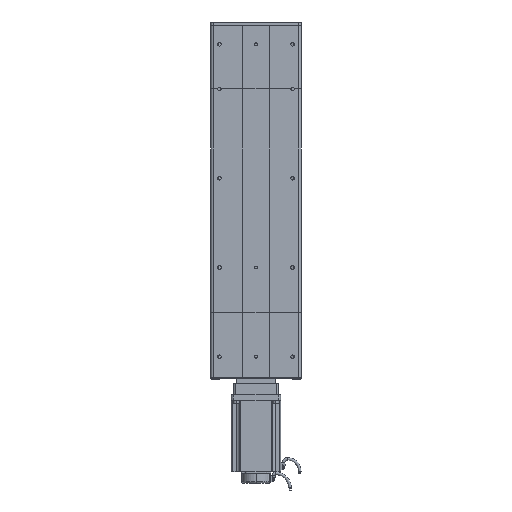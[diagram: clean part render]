
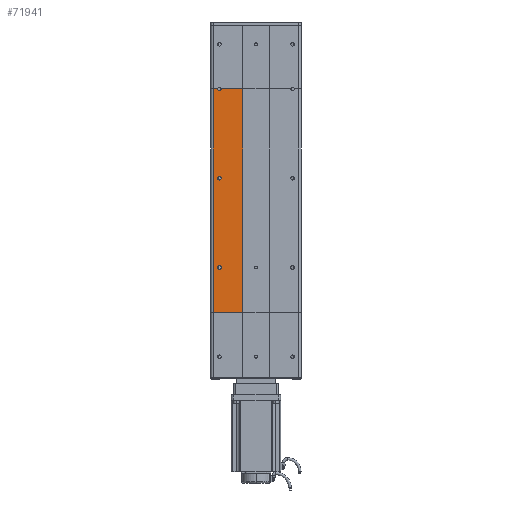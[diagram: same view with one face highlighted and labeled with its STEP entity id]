
A CAD part, front view. The second image highlights one B-rep face of the part: STEP entity #71941.
In plain terms, the highlighted planar face has unit normal (0, -1, 0).
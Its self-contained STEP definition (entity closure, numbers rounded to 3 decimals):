
#36887 = CARTESIAN_POINT ( 'NONE',  ( -30., -34.5, 500. ) ) ;
#36985 = CARTESIAN_POINT ( 'NONE',  ( -78., -34.5, 300. ) ) ;
#37062 = CARTESIAN_POINT ( 'NONE',  ( -78., -34.5, 500. ) ) ;
#37180 = CARTESIAN_POINT ( 'NONE',  ( -78., -34.5, 100. ) ) ;
#37263 = DIRECTION ( 'NONE',  ( 1., 0., 0. ) ) ;
#37264 = DIRECTION ( 'NONE',  ( 0., -1., 0. ) ) ;
#37272 = CARTESIAN_POINT ( 'NONE',  ( -82., -34.5, 100. ) ) ;
#37273 = AXIS2_PLACEMENT_3D ( 'NONE', #37272, #37264, #37263 ) ;
#37274 = CIRCLE ( 'NONE', #37273, 4. ) ;
#37314 = CARTESIAN_POINT ( 'NONE',  ( -86., -34.5, 100. ) ) ;
#37441 = CIRCLE ( 'NONE', #37449, 4. ) ;
#37444 = CARTESIAN_POINT ( 'NONE',  ( -82., -34.5, 300. ) ) ;
#37449 = AXIS2_PLACEMENT_3D ( 'NONE', #37444, #37515, #37514 ) ;
#37514 = DIRECTION ( 'NONE',  ( 1., 0., 0. ) ) ;
#37515 = DIRECTION ( 'NONE',  ( 0., -1., 0. ) ) ;
#37606 = LINE ( 'NONE', #37724, #37723 ) ;
#37722 = DIRECTION ( 'NONE',  ( 1., 0., 0. ) ) ;
#37723 = VECTOR ( 'NONE', #37722, 1000. ) ;
#37724 = CARTESIAN_POINT ( 'NONE',  ( -96., -34.5, 500. ) ) ;
#37819 = AXIS2_PLACEMENT_3D ( 'NONE', #37887, #37884, #37854 ) ;
#37820 = LINE ( 'NONE', #37855, #37889 ) ;
#37822 = CARTESIAN_POINT ( 'NONE',  ( -30., -34.5, 0. ) ) ;
#37854 = DIRECTION ( 'NONE',  ( 1., 0., 0. ) ) ;
#37855 = CARTESIAN_POINT ( 'NONE',  ( -96., -34.5, 0. ) ) ;
#37856 = CIRCLE ( 'NONE', #37819, 4. ) ;
#37857 = DIRECTION ( 'NONE',  ( 0., 0., 1. ) ) ;
#37858 = VECTOR ( 'NONE', #37857, 1000. ) ;
#37859 = CARTESIAN_POINT ( 'NONE',  ( -30., -34.5, 0. ) ) ;
#37860 = LINE ( 'NONE', #37859, #37858 ) ;
#37884 = DIRECTION ( 'NONE',  ( 0., -1., 0. ) ) ;
#37887 = CARTESIAN_POINT ( 'NONE',  ( -82., -34.5, 500. ) ) ;
#37888 = DIRECTION ( 'NONE',  ( 1., 0., 0. ) ) ;
#37889 = VECTOR ( 'NONE', #37888, 1000. ) ;
#37942 = CARTESIAN_POINT ( 'NONE',  ( -86., -34.5, 300. ) ) ;
#38131 = CARTESIAN_POINT ( 'NONE',  ( -86., -34.5, 500. ) ) ;
#38191 = CARTESIAN_POINT ( 'NONE',  ( -96., -34.5, 500. ) ) ;
#38411 = CARTESIAN_POINT ( 'NONE',  ( -96., -34.5, 500. ) ) ;
#38427 = LINE ( 'NONE', #38411, #38433 ) ;
#38432 = DIRECTION ( 'NONE',  ( 1., 0., 0. ) ) ;
#38433 = VECTOR ( 'NONE', #38432, 1000. ) ;
#38761 = CIRCLE ( 'NONE', #38762, 4. ) ;
#38762 = AXIS2_PLACEMENT_3D ( 'NONE', #38776, #38775, #38774 ) ;
#38767 = FACE_BOUND ( 'NONE', #71893, .T. ) ;
#38768 = FACE_OUTER_BOUND ( 'NONE', #71554, .T. ) ;
#38774 = DIRECTION ( 'NONE',  ( 1., 0., 0. ) ) ;
#38775 = DIRECTION ( 'NONE',  ( 0., -1., 0. ) ) ;
#38776 = CARTESIAN_POINT ( 'NONE',  ( -82., -34.5, 300. ) ) ;
#38777 = DIRECTION ( 'NONE',  ( -1., 0., 0. ) ) ;
#38778 = DIRECTION ( 'NONE',  ( 0., 1., 0. ) ) ;
#38779 = CARTESIAN_POINT ( 'NONE',  ( -96., -34.5, 500. ) ) ;
#38780 = AXIS2_PLACEMENT_3D ( 'NONE', #38779, #38778, #38777 ) ;
#38816 = FACE_BOUND ( 'NONE', #72062, .T. ) ;
#38821 = PLANE ( 'NONE',  #38780 ) ;
#39094 = DIRECTION ( 'NONE',  ( 1., 0., 0. ) ) ;
#39097 = CARTESIAN_POINT ( 'NONE',  ( -82., -34.5, 100. ) ) ;
#39121 = DIRECTION ( 'NONE',  ( 0., -1., 0. ) ) ;
#39122 = AXIS2_PLACEMENT_3D ( 'NONE', #39097, #39121, #39094 ) ;
#39136 = DIRECTION ( 'NONE',  ( 0., 0., -1. ) ) ;
#39137 = VECTOR ( 'NONE', #39136, 1000. ) ;
#39138 = CARTESIAN_POINT ( 'NONE',  ( -96., -34.5, 500. ) ) ;
#39152 = CARTESIAN_POINT ( 'NONE',  ( -96., -34.5, 0. ) ) ;
#39157 = LINE ( 'NONE', #39138, #39137 ) ;
#39162 = CIRCLE ( 'NONE', #39122, 4. ) ;
#71208 = VERTEX_POINT ( 'NONE', #37062 ) ;
#71209 = VERTEX_POINT ( 'NONE', #36887 ) ;
#71222 = VERTEX_POINT ( 'NONE', #36985 ) ;
#71286 = VERTEX_POINT ( 'NONE', #37314 ) ;
#71300 = EDGE_CURVE ( 'NONE', #71286, #71315, #37274, .T. ) ;
#71315 = VERTEX_POINT ( 'NONE', #37180 ) ;
#71385 = EDGE_CURVE ( 'NONE', #71527, #71222, #37441, .T. ) ;
#71464 = EDGE_CURVE ( 'NONE', #71208, #71209, #37606, .T. ) ;
#71527 = VERTEX_POINT ( 'NONE', #37942 ) ;
#71549 = EDGE_CURVE ( 'NONE', #71551, #71209, #37860, .T. ) ;
#71550 = EDGE_CURVE ( 'NONE', #72065, #71551, #37820, .T. ) ;
#71551 = VERTEX_POINT ( 'NONE', #37822 ) ;
#71553 = EDGE_CURVE ( 'NONE', #71633, #71208, #37856, .T. ) ;
#71554 = EDGE_LOOP ( 'NONE', ( #71894, #71558, #72055, #72008, #71947, #71559 ) ) ;
#71558 = ORIENTED_EDGE ( 'NONE', *, *, #71553, .F. ) ;
#71559 = ORIENTED_EDGE ( 'NONE', *, *, #71549, .T. ) ;
#71633 = VERTEX_POINT ( 'NONE', #38131 ) ;
#71637 = VERTEX_POINT ( 'NONE', #38191 ) ;
#71829 = EDGE_CURVE ( 'NONE', #71637, #71633, #38427, .T. ) ;
#71893 = EDGE_LOOP ( 'NONE', ( #71944, #72007 ) ) ;
#71894 = ORIENTED_EDGE ( 'NONE', *, *, #71464, .F. ) ;
#71941 = ADVANCED_FACE ( 'NONE', ( #38816, #38767, #38768 ), #38821, .F. ) ;
#71943 = ORIENTED_EDGE ( 'NONE', *, *, #71946, .F. ) ;
#71944 = ORIENTED_EDGE ( 'NONE', *, *, #72009, .F. ) ;
#71946 = EDGE_CURVE ( 'NONE', #71222, #71527, #38761, .T. ) ;
#71947 = ORIENTED_EDGE ( 'NONE', *, *, #71550, .T. ) ;
#71948 = ORIENTED_EDGE ( 'NONE', *, *, #71385, .F. ) ;
#72007 = ORIENTED_EDGE ( 'NONE', *, *, #71300, .F. ) ;
#72008 = ORIENTED_EDGE ( 'NONE', *, *, #72056, .T. ) ;
#72009 = EDGE_CURVE ( 'NONE', #71315, #71286, #39162, .T. ) ;
#72055 = ORIENTED_EDGE ( 'NONE', *, *, #71829, .F. ) ;
#72056 = EDGE_CURVE ( 'NONE', #71637, #72065, #39157, .T. ) ;
#72062 = EDGE_LOOP ( 'NONE', ( #71943, #71948 ) ) ;
#72065 = VERTEX_POINT ( 'NONE', #39152 ) ;
